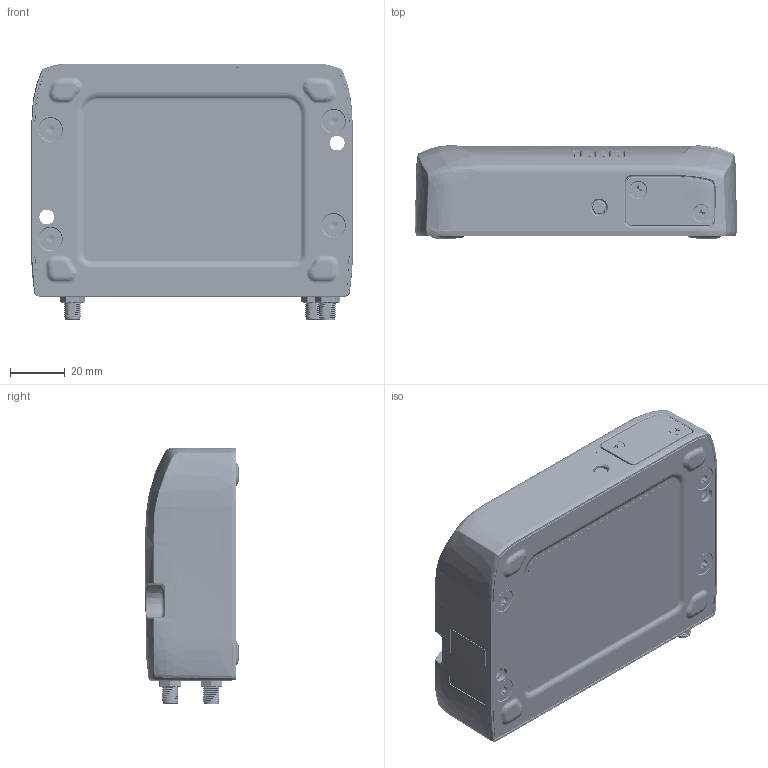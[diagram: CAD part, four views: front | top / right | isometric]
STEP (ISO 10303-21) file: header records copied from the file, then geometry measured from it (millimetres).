
FILE_DESCRIPTION((''),'2;1');
FILE_NAME('BRONCO_ASSY_MASTER_ASM','2026-03-10T12:52:42',('jle'),('Sierra Wireless'),'CREO PARAMETRIC BY PTC INC, 2022124','CREO PARAMETRIC BY PTC INC, 2022124','');
FILE_SCHEMA(('CONFIG_CONTROL_DESIGN','GEOMETRIC_VALIDATION_PROPERTIES_MIM'));
Products named in the file (22): 5308375; 5308221; RIVIAN-BRONCO_PCB_DV4_JUL162025; 12401977; 430450406_1_MAR2024; TOYOTA-RJ-45; G85D1171X1XHHR-4FF; BRONCO_PCA_MASTER_ASM; SMA_MAR212022; 5307735; 5308241; 5307286; 5308224; 5308225; 5307485; 5307485_PSA; 5307485_ASM; RIVIAN_LABEL; RIVIAN_LABEL_SIDE; 5308299; SMA-CABLE_AUG202025; BRONCO_ASSY_MASTER_ASM
Assembly tree (30 placements, depth 3):
  BRONCO_ASSY_MASTER_ASM
    5308375
    5308221
    BRONCO_PCA_MASTER_ASM
      RIVIAN-BRONCO_PCB_DV4_JUL162025
      12401977
      430450406_1_MAR2024
      TOYOTA-RJ-45
      G85D1171X1XHHR-4FF  x2
    SMA_MAR212022
    5307735  x3
    5308241
    5307286  x2
    5308224
    5308225
    5307485_ASM  x2
      5307485
      5307485_PSA
    RIVIAN_LABEL
    RIVIAN_LABEL_SIDE
    5308299  x4
    SMA-CABLE_AUG202025  x2
Bounding box: 117.38 x 34.01 x 93.71 mm (x, y, z)
Volume: 104886.2 mm3; surface area: 105479.5 mm2
Topology: 30 solids, 56 shells, 13849 faces, 37302 edges, 23668 vertices
Faces by surface type: plane 7388, cylinder 2989, bspline 1778, extrusion 607, cone 504, torus 309, sphere 244, revolution 30
Entity records: 630683 total; most frequent: CARTESIAN_POINT 259753, ORIENTED_EDGE 64682, DIRECTION 52798, EDGE_CURVE 32341, VECTOR 21399, PRESENTATION_STYLE_ASSIGNMENT 20945, LINE 20792, STYLED_ITEM 20633
